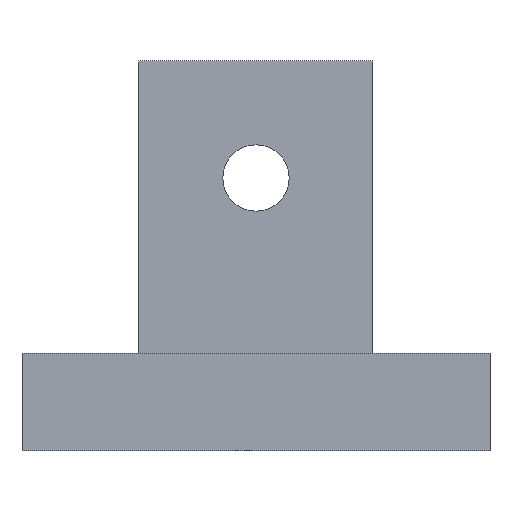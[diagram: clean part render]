
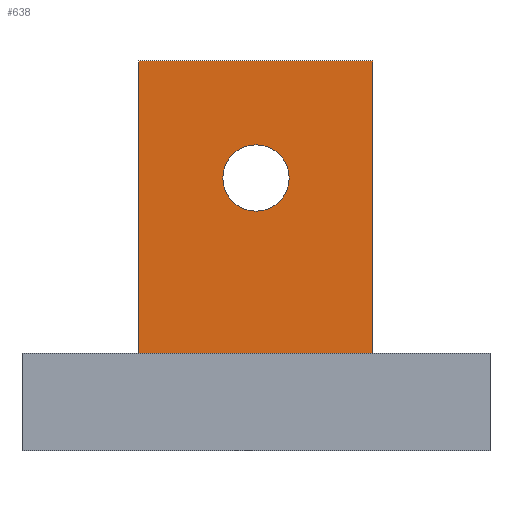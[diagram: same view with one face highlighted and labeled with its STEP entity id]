
A CAD part, left-side view. The second image highlights one B-rep face of the part: STEP entity #638.
In plain terms, the highlighted planar face has unit normal (-1, 0, 0).
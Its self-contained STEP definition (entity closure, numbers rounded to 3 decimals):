
#126 = PLANE('',#127);
#127 = AXIS2_PLACEMENT_3D('',#128,#129,#130);
#128 = CARTESIAN_POINT('',(-12.,-12.,5.));
#129 = DIRECTION('',(0.,0.,1.));
#130 = DIRECTION('',(1.,0.,0.));
#265 = EDGE_CURVE('',#266,#268,#270,.T.);
#266 = VERTEX_POINT('',#267);
#267 = CARTESIAN_POINT('',(-6.,-6.,5.));
#268 = VERTEX_POINT('',#269);
#269 = CARTESIAN_POINT('',(-6.,6.,5.));
#270 = SURFACE_CURVE('',#271,(#275,#282),.PCURVE_S1.);
#271 = LINE('',#272,#273);
#272 = CARTESIAN_POINT('',(-6.,-6.,5.));
#273 = VECTOR('',#274,1.);
#274 = DIRECTION('',(0.,1.,0.));
#275 = PCURVE('',#126,#276);
#276 = DEFINITIONAL_REPRESENTATION('',(#277),#281);
#277 = LINE('',#278,#279);
#278 = CARTESIAN_POINT('',(6.,6.));
#279 = VECTOR('',#280,1.);
#280 = DIRECTION('',(0.,1.));
#281 = ( GEOMETRIC_REPRESENTATION_CONTEXT(2) 
PARAMETRIC_REPRESENTATION_CONTEXT() REPRESENTATION_CONTEXT('2D SPACE',''
  ) );
#282 = PCURVE('',#283,#288);
#283 = PLANE('',#284);
#284 = AXIS2_PLACEMENT_3D('',#285,#286,#287);
#285 = CARTESIAN_POINT('',(-6.,-6.,5.));
#286 = DIRECTION('',(1.,0.,0.));
#287 = DIRECTION('',(0.,0.,1.));
#288 = DEFINITIONAL_REPRESENTATION('',(#289),#293);
#289 = LINE('',#290,#291);
#290 = CARTESIAN_POINT('',(0.,0.));
#291 = VECTOR('',#292,1.);
#292 = DIRECTION('',(0.,-1.));
#293 = ( GEOMETRIC_REPRESENTATION_CONTEXT(2) 
PARAMETRIC_REPRESENTATION_CONTEXT() REPRESENTATION_CONTEXT('2D SPACE',''
  ) );
#311 = PLANE('',#312);
#312 = AXIS2_PLACEMENT_3D('',#313,#314,#315);
#313 = CARTESIAN_POINT('',(-6.,6.,5.));
#314 = DIRECTION('',(0.,1.,0.));
#315 = DIRECTION('',(0.,0.,1.));
#365 = PLANE('',#366);
#366 = AXIS2_PLACEMENT_3D('',#367,#368,#369);
#367 = CARTESIAN_POINT('',(-6.,-6.,5.));
#368 = DIRECTION('',(0.,1.,0.));
#369 = DIRECTION('',(0.,0.,1.));
#638 = ADVANCED_FACE('',(#639,#714),#283,.F.);
#639 = FACE_BOUND('',#640,.F.);
#640 = EDGE_LOOP('',(#641,#664,#665,#688));
#641 = ORIENTED_EDGE('',*,*,#642,.F.);
#642 = EDGE_CURVE('',#266,#643,#645,.T.);
#643 = VERTEX_POINT('',#644);
#644 = CARTESIAN_POINT('',(-6.,-6.,20.));
#645 = SURFACE_CURVE('',#646,(#650,#657),.PCURVE_S1.);
#646 = LINE('',#647,#648);
#647 = CARTESIAN_POINT('',(-6.,-6.,5.));
#648 = VECTOR('',#649,1.);
#649 = DIRECTION('',(0.,0.,1.));
#650 = PCURVE('',#283,#651);
#651 = DEFINITIONAL_REPRESENTATION('',(#652),#656);
#652 = LINE('',#653,#654);
#653 = CARTESIAN_POINT('',(0.,0.));
#654 = VECTOR('',#655,1.);
#655 = DIRECTION('',(1.,0.));
#656 = ( GEOMETRIC_REPRESENTATION_CONTEXT(2) 
PARAMETRIC_REPRESENTATION_CONTEXT() REPRESENTATION_CONTEXT('2D SPACE',''
  ) );
#657 = PCURVE('',#365,#658);
#658 = DEFINITIONAL_REPRESENTATION('',(#659),#663);
#659 = LINE('',#660,#661);
#660 = CARTESIAN_POINT('',(0.,0.));
#661 = VECTOR('',#662,1.);
#662 = DIRECTION('',(1.,0.));
#663 = ( GEOMETRIC_REPRESENTATION_CONTEXT(2) 
PARAMETRIC_REPRESENTATION_CONTEXT() REPRESENTATION_CONTEXT('2D SPACE',''
  ) );
#664 = ORIENTED_EDGE('',*,*,#265,.T.);
#665 = ORIENTED_EDGE('',*,*,#666,.T.);
#666 = EDGE_CURVE('',#268,#667,#669,.T.);
#667 = VERTEX_POINT('',#668);
#668 = CARTESIAN_POINT('',(-6.,6.,20.));
#669 = SURFACE_CURVE('',#670,(#674,#681),.PCURVE_S1.);
#670 = LINE('',#671,#672);
#671 = CARTESIAN_POINT('',(-6.,6.,5.));
#672 = VECTOR('',#673,1.);
#673 = DIRECTION('',(0.,0.,1.));
#674 = PCURVE('',#283,#675);
#675 = DEFINITIONAL_REPRESENTATION('',(#676),#680);
#676 = LINE('',#677,#678);
#677 = CARTESIAN_POINT('',(0.,-12.));
#678 = VECTOR('',#679,1.);
#679 = DIRECTION('',(1.,0.));
#680 = ( GEOMETRIC_REPRESENTATION_CONTEXT(2) 
PARAMETRIC_REPRESENTATION_CONTEXT() REPRESENTATION_CONTEXT('2D SPACE',''
  ) );
#681 = PCURVE('',#311,#682);
#682 = DEFINITIONAL_REPRESENTATION('',(#683),#687);
#683 = LINE('',#684,#685);
#684 = CARTESIAN_POINT('',(0.,0.));
#685 = VECTOR('',#686,1.);
#686 = DIRECTION('',(1.,0.));
#687 = ( GEOMETRIC_REPRESENTATION_CONTEXT(2) 
PARAMETRIC_REPRESENTATION_CONTEXT() REPRESENTATION_CONTEXT('2D SPACE',''
  ) );
#688 = ORIENTED_EDGE('',*,*,#689,.F.);
#689 = EDGE_CURVE('',#643,#667,#690,.T.);
#690 = SURFACE_CURVE('',#691,(#695,#702),.PCURVE_S1.);
#691 = LINE('',#692,#693);
#692 = CARTESIAN_POINT('',(-6.,-6.,20.));
#693 = VECTOR('',#694,1.);
#694 = DIRECTION('',(0.,1.,0.));
#695 = PCURVE('',#283,#696);
#696 = DEFINITIONAL_REPRESENTATION('',(#697),#701);
#697 = LINE('',#698,#699);
#698 = CARTESIAN_POINT('',(15.,0.));
#699 = VECTOR('',#700,1.);
#700 = DIRECTION('',(0.,-1.));
#701 = ( GEOMETRIC_REPRESENTATION_CONTEXT(2) 
PARAMETRIC_REPRESENTATION_CONTEXT() REPRESENTATION_CONTEXT('2D SPACE',''
  ) );
#702 = PCURVE('',#703,#708);
#703 = PLANE('',#704);
#704 = AXIS2_PLACEMENT_3D('',#705,#706,#707);
#705 = CARTESIAN_POINT('',(-6.,-6.,20.));
#706 = DIRECTION('',(0.,0.,1.));
#707 = DIRECTION('',(1.,0.,0.));
#708 = DEFINITIONAL_REPRESENTATION('',(#709),#713);
#709 = LINE('',#710,#711);
#710 = CARTESIAN_POINT('',(0.,0.));
#711 = VECTOR('',#712,1.);
#712 = DIRECTION('',(0.,1.));
#713 = ( GEOMETRIC_REPRESENTATION_CONTEXT(2) 
PARAMETRIC_REPRESENTATION_CONTEXT() REPRESENTATION_CONTEXT('2D SPACE',''
  ) );
#714 = FACE_BOUND('',#715,.F.);
#715 = EDGE_LOOP('',(#716));
#716 = ORIENTED_EDGE('',*,*,#717,.T.);
#717 = EDGE_CURVE('',#718,#718,#720,.T.);
#718 = VERTEX_POINT('',#719);
#719 = CARTESIAN_POINT('',(-6.,1.7,14.));
#720 = SURFACE_CURVE('',#721,(#726,#737),.PCURVE_S1.);
#721 = CIRCLE('',#722,1.7);
#722 = AXIS2_PLACEMENT_3D('',#723,#724,#725);
#723 = CARTESIAN_POINT('',(-6.,0.,14.));
#724 = DIRECTION('',(-1.,0.,0.));
#725 = DIRECTION('',(0.,1.,0.));
#726 = PCURVE('',#283,#727);
#727 = DEFINITIONAL_REPRESENTATION('',(#728),#736);
#728 = ( BOUNDED_CURVE() B_SPLINE_CURVE(2,(#729,#730,#731,#732,#733,#734
,#735),.UNSPECIFIED.,.T.,.F.) B_SPLINE_CURVE_WITH_KNOTS((1,2,2,2,2,1),(
    -2.094,0.,2.094,4.189,6.283,
8.378),.UNSPECIFIED.) CURVE() GEOMETRIC_REPRESENTATION_ITEM() 
RATIONAL_B_SPLINE_CURVE((1.,0.5,1.,0.5,1.,0.5,1.)) REPRESENTATION_ITEM(
  '') );
#729 = CARTESIAN_POINT('',(9.,-7.7));
#730 = CARTESIAN_POINT('',(6.056,-7.7));
#731 = CARTESIAN_POINT('',(7.528,-5.15));
#732 = CARTESIAN_POINT('',(9.,-2.6));
#733 = CARTESIAN_POINT('',(10.472,-5.15));
#734 = CARTESIAN_POINT('',(11.944,-7.7));
#735 = CARTESIAN_POINT('',(9.,-7.7));
#736 = ( GEOMETRIC_REPRESENTATION_CONTEXT(2) 
PARAMETRIC_REPRESENTATION_CONTEXT() REPRESENTATION_CONTEXT('2D SPACE',''
  ) );
#737 = PCURVE('',#738,#743);
#738 = CYLINDRICAL_SURFACE('',#739,1.7);
#739 = AXIS2_PLACEMENT_3D('',#740,#741,#742);
#740 = CARTESIAN_POINT('',(-7.,0.,14.));
#741 = DIRECTION('',(-1.,-0.,-0.));
#742 = DIRECTION('',(0.,1.,0.));
#743 = DEFINITIONAL_REPRESENTATION('',(#744),#748);
#744 = LINE('',#745,#746);
#745 = CARTESIAN_POINT('',(-6.283,-1.));
#746 = VECTOR('',#747,1.);
#747 = DIRECTION('',(1.,-0.));
#748 = ( GEOMETRIC_REPRESENTATION_CONTEXT(2) 
PARAMETRIC_REPRESENTATION_CONTEXT() REPRESENTATION_CONTEXT('2D SPACE',''
  ) );
